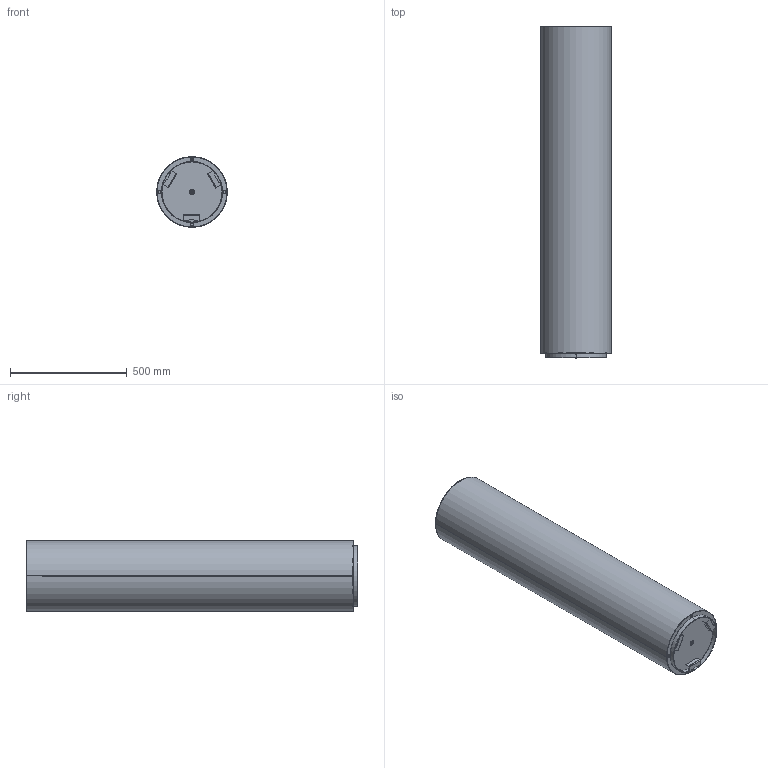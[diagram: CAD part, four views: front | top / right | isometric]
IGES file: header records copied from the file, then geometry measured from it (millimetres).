
Start section: SolidWorks IGES file using analytic representation for surfaces
Global section: file name: C:\VaultDeCastelli\Progetti\DC\PESO LEGGERO PRODOTTI\Ale\DeCastelli-3D-Cohiba slim 142.igs; native system: SolidWorks 2022; preprocessor: SolidWorks 2022; author: AlessandroP; date: 240802.102703; units: millimetre
Bounding box: 301.7 x 1420 x 301.7 mm (x, y, z)
Surface area: 2911548.5 mm2 (no closed solid volume)
Topology: 0 solids, 0 shells, 91 faces, 1799 edges, 1799 vertices
Faces by surface type: bspline 50, revolution 41
